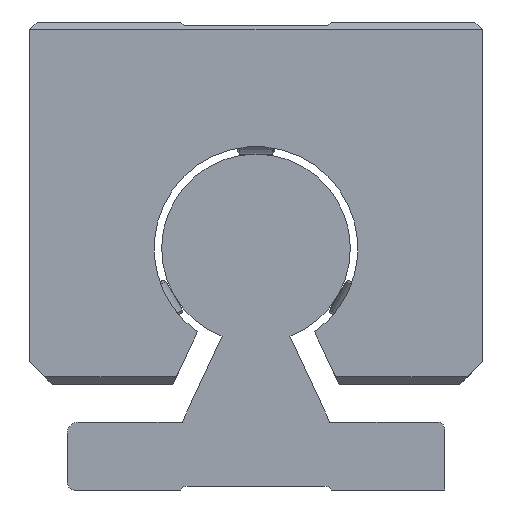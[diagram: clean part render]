
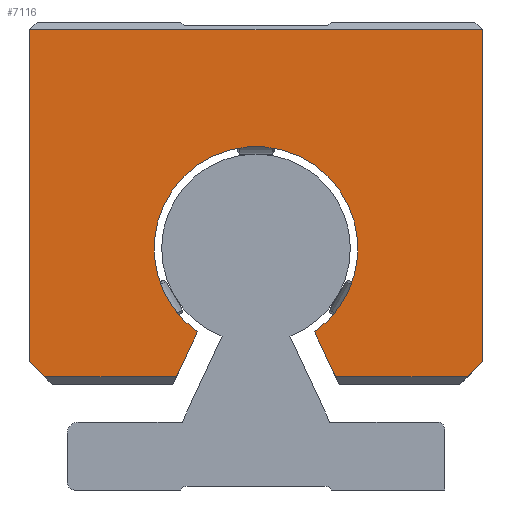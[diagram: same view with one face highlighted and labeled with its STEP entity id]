
A CAD part, left-side view. The second image highlights one B-rep face of the part: STEP entity #7116.
In plain terms, the highlighted planar face has unit normal (-1, 0, 0).
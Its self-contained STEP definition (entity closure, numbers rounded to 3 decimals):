
#5677=CARTESIAN_POINT('',(242.19,-30.,61.));
#5678=VERTEX_POINT('',#5677);
#5687=CARTESIAN_POINT('',(242.19,-30.,17.));
#5688=VERTEX_POINT('',#5687);
#5689=CARTESIAN_POINT('',(242.19,-30.,61.));
#5690=DIRECTION('',(0.0,0.0,-1.0));
#5691=VECTOR('',#5690,44.);
#5692=LINE('',#5689,#5691);
#5693=EDGE_CURVE('',#5678,#5688,#5692,.T.);
#5924=CARTESIAN_POINT('',(242.19,-7.758,20.952));
#5925=VERTEX_POINT('',#5924);
#5932=CARTESIAN_POINT('',(242.19,7.758,20.952));
#5933=VERTEX_POINT('',#5932);
#5934=CARTESIAN_POINT('',(242.19,0.,32.));
#5935=DIRECTION('',(-1.0,0.0,0.0));
#5936=DIRECTION('',(0.0,-1.0,0.0));
#5937=AXIS2_PLACEMENT_3D('',#5934,#5935,#5936);
#5938=CIRCLE('',#5937,13.5);
#5939=EDGE_CURVE('',#5925,#5933,#5938,.T.);
#6744=CARTESIAN_POINT('',(242.19,30.,61.));
#6745=VERTEX_POINT('',#6744);
#6752=CARTESIAN_POINT('',(242.19,30.,61.));
#6753=DIRECTION('',(0.0,-1.0,0.0));
#6754=VECTOR('',#6753,60.0);
#6755=LINE('',#6752,#6754);
#6756=EDGE_CURVE('',#6745,#5678,#6755,.T.);
#6766=CARTESIAN_POINT('',(242.19,28.,15.));
#6767=VERTEX_POINT('',#6766);
#6784=CARTESIAN_POINT('',(242.19,10.534,15.));
#6785=VERTEX_POINT('',#6784);
#6792=CARTESIAN_POINT('',(242.19,10.534,15.));
#6793=DIRECTION('',(0.0,1.0,0.0));
#6794=VECTOR('',#6793,17.466);
#6795=LINE('',#6792,#6794);
#6796=EDGE_CURVE('',#6785,#6767,#6795,.T.);
#6855=CARTESIAN_POINT('',(242.19,30.,17.));
#6856=VERTEX_POINT('',#6855);
#6857=CARTESIAN_POINT('',(242.19,28.,15.));
#6858=DIRECTION('',(0.0,0.707,0.707));
#6859=VECTOR('',#6858,2.828);
#6860=LINE('',#6857,#6859);
#6861=EDGE_CURVE('',#6767,#6856,#6860,.T.);
#7042=CARTESIAN_POINT('',(242.19,-28.,15.));
#7043=VERTEX_POINT('',#7042);
#7044=CARTESIAN_POINT('',(242.19,-30.,17.));
#7045=DIRECTION('',(0.0,0.707,-0.707));
#7046=VECTOR('',#7045,2.828);
#7047=LINE('',#7044,#7046);
#7048=EDGE_CURVE('',#5688,#7043,#7047,.T.);
#7066=CARTESIAN_POINT('',(242.19,-10.534,15.));
#7067=VERTEX_POINT('',#7066);
#7068=CARTESIAN_POINT('',(242.19,-28.,15.));
#7069=DIRECTION('',(0.0,1.0,0.0));
#7070=VECTOR('',#7069,17.466);
#7071=LINE('',#7068,#7070);
#7072=EDGE_CURVE('',#7043,#7067,#7071,.T.);
#7084=CARTESIAN_POINT('',(242.19,-20.,61.75));
#7085=DIRECTION('',(1.0,0.0,0.0));
#7086=DIRECTION('',(0.0,0.0,-1.0));
#7087=AXIS2_PLACEMENT_3D('',#7084,#7085,#7086);
#7088=PLANE('',#7087);
#7089=ORIENTED_EDGE('',*,*,#6796,.F.);
#7090=CARTESIAN_POINT('',(242.19,7.758,20.952));
#7091=DIRECTION('',(0.0,0.423,-0.906));
#7092=VECTOR('',#7091,6.567);
#7093=LINE('',#7090,#7092);
#7094=EDGE_CURVE('',#5933,#6785,#7093,.T.);
#7095=ORIENTED_EDGE('',*,*,#7094,.F.);
#7096=ORIENTED_EDGE('',*,*,#5939,.F.);
#7097=CARTESIAN_POINT('',(242.19,-10.534,15.));
#7098=DIRECTION('',(0.0,0.423,0.906));
#7099=VECTOR('',#7098,6.567);
#7100=LINE('',#7097,#7099);
#7101=EDGE_CURVE('',#7067,#5925,#7100,.T.);
#7102=ORIENTED_EDGE('',*,*,#7101,.F.);
#7103=ORIENTED_EDGE('',*,*,#7072,.F.);
#7104=ORIENTED_EDGE('',*,*,#7048,.F.);
#7105=ORIENTED_EDGE('',*,*,#5693,.F.);
#7106=ORIENTED_EDGE('',*,*,#6756,.F.);
#7107=CARTESIAN_POINT('',(242.19,30.,17.));
#7108=DIRECTION('',(0.0,0.0,1.0));
#7109=VECTOR('',#7108,44.);
#7110=LINE('',#7107,#7109);
#7111=EDGE_CURVE('',#6856,#6745,#7110,.T.);
#7112=ORIENTED_EDGE('',*,*,#7111,.F.);
#7113=ORIENTED_EDGE('',*,*,#6861,.F.);
#7114=EDGE_LOOP('',(#7089,#7095,#7096,#7102,#7103,#7104,#7105,#7106,#7112,#7113));
#7115=FACE_OUTER_BOUND('',#7114,.T.);
#7116=ADVANCED_FACE('',(#7115),#7088,.F.);
